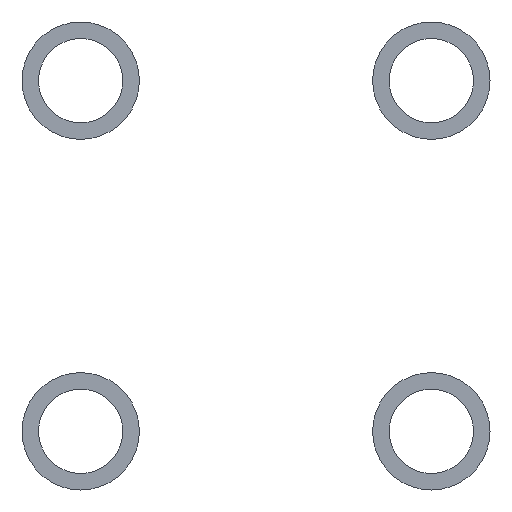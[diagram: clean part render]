
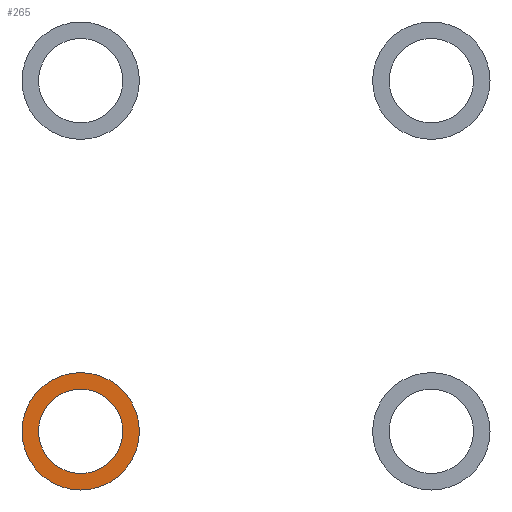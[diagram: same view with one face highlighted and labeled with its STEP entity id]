
A CAD part, front view. The second image highlights one B-rep face of the part: STEP entity #265.
In plain terms, the highlighted planar face has unit normal (0, -1, 0).
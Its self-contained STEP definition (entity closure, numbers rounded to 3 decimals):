
#41=FACE_BOUND('',#90,.T.);
#65=FACE_OUTER_BOUND('',#89,.T.);
#89=EDGE_LOOP('',(#209));
#90=EDGE_LOOP('',(#210));
#137=CIRCLE('',#296,4.252);
#138=CIRCLE('',#297,3.054);
#161=VERTEX_POINT('',#449);
#162=VERTEX_POINT('',#451);
#185=EDGE_CURVE('',#161,#161,#137,.T.);
#186=EDGE_CURVE('',#162,#162,#138,.T.);
#209=ORIENTED_EDGE('',*,*,#185,.T.);
#210=ORIENTED_EDGE('',*,*,#186,.F.);
#257=PLANE('',#295);
#265=ADVANCED_FACE('',(#65,#41),#257,.T.);
#295=AXIS2_PLACEMENT_3D('',#448,#348,#349);
#296=AXIS2_PLACEMENT_3D('',#450,#350,#351);
#297=AXIS2_PLACEMENT_3D('',#452,#352,#353);
#348=DIRECTION('center_axis',(0.,-1.,0.));
#349=DIRECTION('ref_axis',(0.,0.,-1.));
#350=DIRECTION('center_axis',(0.,-1.,0.));
#351=DIRECTION('ref_axis',(1.,0.,0.));
#352=DIRECTION('center_axis',(0.,-1.,0.));
#353=DIRECTION('ref_axis',(1.,0.,0.));
#448=CARTESIAN_POINT('Origin',(1.255,1.639,-68.305));
#449=CARTESIAN_POINT('',(1.255,1.639,-69.502));
#450=CARTESIAN_POINT('Origin',(1.255,1.639,-65.25));
#451=CARTESIAN_POINT('',(1.255,1.639,-68.305));
#452=CARTESIAN_POINT('Origin',(1.255,1.639,-65.25));
